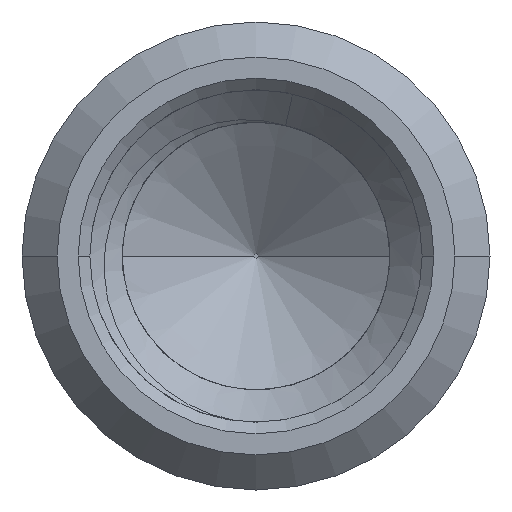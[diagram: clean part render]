
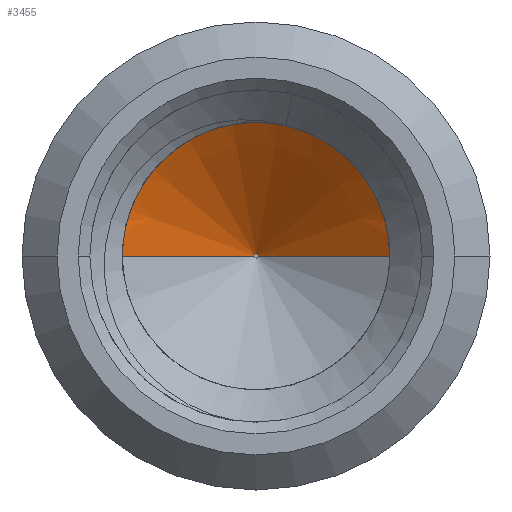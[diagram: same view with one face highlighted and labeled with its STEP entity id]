
A CAD part, front view. The second image highlights one B-rep face of the part: STEP entity #3455.
In plain terms, the highlighted conical face has half-angle 54.462 degrees and reference radius 0.729 mm.
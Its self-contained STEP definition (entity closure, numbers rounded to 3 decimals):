
#1179=CARTESIAN_POINT('',(0.,-12.05,0.));
#1180=DIRECTION('',(0.,1.,0.));
#1181=DIRECTION('',(-1.,0.,0.));
#1182=AXIS2_PLACEMENT_3D('',#1179,#1180,#1181);
#1601=DIRECTION('',(-0.814,-0.581,0.));
#1602=VECTOR('',#1601,1.72);
#1603=CARTESIAN_POINT('',(-0.02,-11.05,
0.));
#1604=LINE('',#1603,#1602);
#1605=CARTESIAN_POINT('',(0.,-11.05,0.));
#1606=DIRECTION('',(0.,1.,0.));
#1607=DIRECTION('',(-1.,0.,0.));
#1608=AXIS2_PLACEMENT_3D('',#1605,#1606,#1607);
#1615=DIRECTION('',(0.814,-0.581,0.));
#1616=VECTOR('',#1615,1.72);
#1617=CARTESIAN_POINT('',(0.02,-11.05,
0.));
#1618=LINE('',#1617,#1616);
#1970=CARTESIAN_POINT('',(-0.02,-11.05,0.));
#1971=CARTESIAN_POINT('',(0.02,-11.05,0.));
#1972=VERTEX_POINT('',#1970);
#1973=VERTEX_POINT('',#1971);
#1974=CARTESIAN_POINT('',(-1.42,-12.05,0.));
#1975=CARTESIAN_POINT('',(1.42,-12.05,0.));
#1976=VERTEX_POINT('',#1974);
#1977=VERTEX_POINT('',#1975);
#3441=CARTESIAN_POINT('',(0.,-11.556,0.));
#3442=DIRECTION('',(0.,-1.,0.));
#3443=DIRECTION('',(0.,0.,-1.));
#3444=AXIS2_PLACEMENT_3D('',#3441,#3442,#3443);
#3445=CONICAL_SURFACE('',#3444,0.729,54.462);
#3447=ORIENTED_EDGE('',*,*,#3446,.F.);
#3449=ORIENTED_EDGE('',*,*,#3448,.T.);
#3450=ORIENTED_EDGE('',*,*,#3280,.T.);
#3452=ORIENTED_EDGE('',*,*,#3451,.F.);
#3453=EDGE_LOOP('',(#3447,#3449,#3450,#3452));
#3454=FACE_OUTER_BOUND('',#3453,.F.);
#3455=ADVANCED_FACE('',(#3454),#3445,.F.);
#1183=CIRCLE('',#1182,1.42);
#1609=CIRCLE('',#1608,0.02);
#3280=EDGE_CURVE('',#1976,#1977,#1183,.T.);
#3446=EDGE_CURVE('',#1972,#1973,#1609,.T.);
#3448=EDGE_CURVE('',#1972,#1976,#1604,.T.);
#3451=EDGE_CURVE('',#1973,#1977,#1618,.T.);
